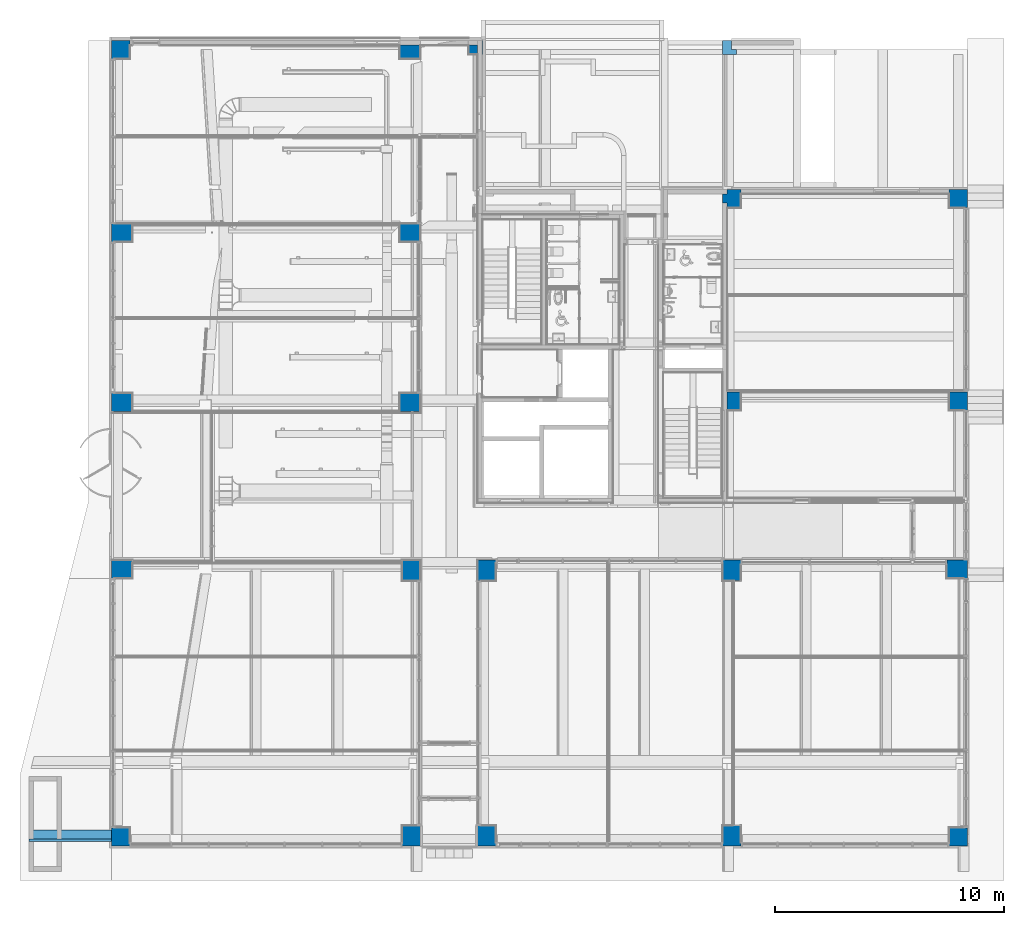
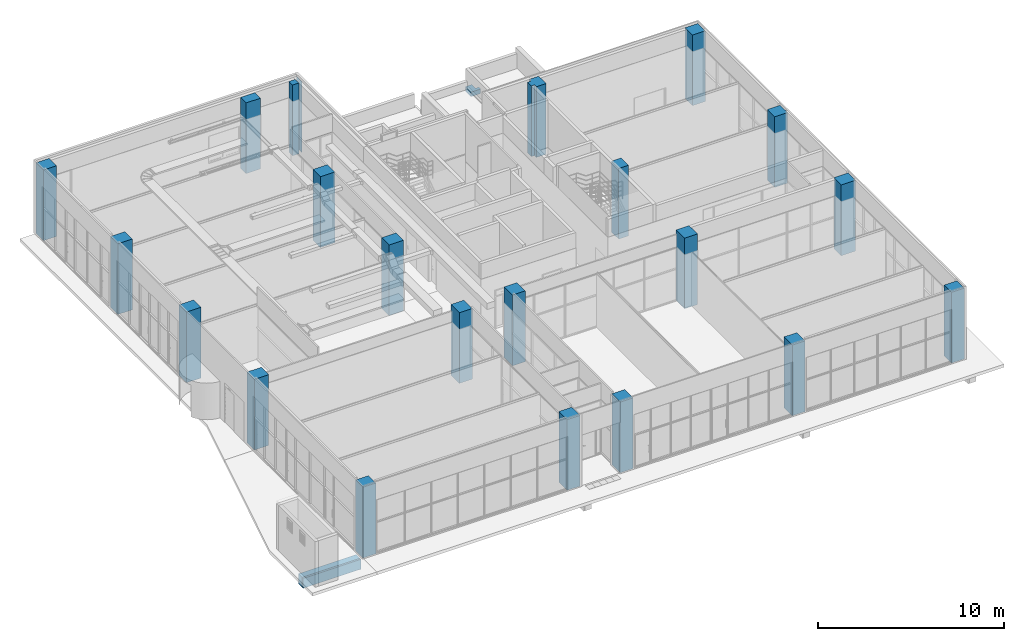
# One storey, part 1 of 100: 22 columns, 2 beams.
"""IFC2X3 building model written with IfcOpenShell, lengths in millimetres."""

from ifc_helpers import new_model, entity, si_unit, converted_unit, derived_unit, direction, frame, frame_2d, origin, origin_2d_with_axis, place, context, subcontext, project, spatial, polyline, rectangle, outline, extrude, source, transform, mapped, material, type_object, type_shapes, element, save


model = new_model("IFC2X3")

# Units and contexts
model_context = context("Model", 3, precision=0.01, world=origin(), true_north=direction((6.123031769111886e-17, 1.0)))
body_context = subcontext(model_context, "Body", "Model", "MODEL_VIEW")
ifc_project = project(units=[si_unit("LENGTHUNIT", "METRE", prefix="MILLI"), si_unit("AREAUNIT", "SQUARE_METRE"), si_unit("VOLUMEUNIT", "CUBIC_METRE"), converted_unit("PLANEANGLEUNIT", "DEGREE", entity("IfcRatioMeasure", 0.017453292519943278), si_unit("PLANEANGLEUNIT", "RADIAN"), dimensions=[0, 0, 0, 0, 0, 0, 0]), si_unit("MASSUNIT", "GRAM", prefix="KILO"), derived_unit("MASSDENSITYUNIT", [(si_unit("MASSUNIT", "GRAM", prefix="KILO"), 1), (si_unit("LENGTHUNIT", "METRE"), -3)]), derived_unit("MOMENTOFINERTIAUNIT", [(si_unit("LENGTHUNIT", "METRE"), 4)]), si_unit("TIMEUNIT", "SECOND"), si_unit("FREQUENCYUNIT", "HERTZ"), si_unit("THERMODYNAMICTEMPERATUREUNIT", "DEGREE_CELSIUS"), derived_unit("THERMALTRANSMITTANCEUNIT", [(si_unit("MASSUNIT", "GRAM", prefix="KILO"), 1), (si_unit("THERMODYNAMICTEMPERATUREUNIT", "KELVIN"), -1), (si_unit("TIMEUNIT", "SECOND"), -3)]), derived_unit("VOLUMETRICFLOWRATEUNIT", [(si_unit("LENGTHUNIT", "METRE"), 3), (si_unit("TIMEUNIT", "SECOND"), -1)]), derived_unit("MASSFLOWRATEUNIT", [(si_unit("MASSUNIT", "GRAM", prefix="KILO"), 1), (si_unit("TIMEUNIT", "SECOND"), -1)]), derived_unit("ROTATIONALFREQUENCYUNIT", [(si_unit("TIMEUNIT", "SECOND"), -1)]), si_unit("ELECTRICCURRENTUNIT", "AMPERE"), si_unit("ELECTRICVOLTAGEUNIT", "VOLT"), si_unit("POWERUNIT", "WATT"), si_unit("FORCEUNIT", "NEWTON", prefix="KILO"), si_unit("ILLUMINANCEUNIT", "LUX"), si_unit("LUMINOUSFLUXUNIT", "LUMEN"), si_unit("LUMINOUSINTENSITYUNIT", "CANDELA"), derived_unit("USERDEFINED", [(si_unit("MASSUNIT", "GRAM", prefix="KILO"), -1), (si_unit("LENGTHUNIT", "METRE"), -2), (si_unit("TIMEUNIT", "SECOND"), 3), (si_unit("LUMINOUSFLUXUNIT", "LUMEN"), 1)]), derived_unit("SOUNDPOWERUNIT", [(si_unit("MASSUNIT", "GRAM", prefix="KILO"), 1), (si_unit("LENGTHUNIT", "METRE"), 2), (si_unit("TIMEUNIT", "SECOND"), -3)]), derived_unit("SOUNDPRESSUREUNIT", [(si_unit("MASSUNIT", "GRAM", prefix="KILO"), 1), (si_unit("LENGTHUNIT", "METRE"), -1), (si_unit("TIMEUNIT", "SECOND"), -2)]), derived_unit("LINEARVELOCITYUNIT", [(si_unit("LENGTHUNIT", "METRE"), 1), (si_unit("TIMEUNIT", "SECOND"), -1)]), si_unit("PRESSUREUNIT", "PASCAL"), derived_unit("USERDEFINED", [(si_unit("LENGTHUNIT", "METRE"), -2), (si_unit("MASSUNIT", "GRAM", prefix="KILO"), 1), (si_unit("TIMEUNIT", "SECOND"), -2)]), derived_unit("LINEARFORCEUNIT", [(si_unit("MASSUNIT", "GRAM", prefix="KILO"), 1), (si_unit("LENGTHUNIT", "METRE"), 1), (si_unit("TIMEUNIT", "SECOND"), -2), (si_unit("LENGTHUNIT", "METRE"), -1)]), derived_unit("PLANARFORCEUNIT", [(si_unit("MASSUNIT", "GRAM", prefix="KILO"), 1), (si_unit("LENGTHUNIT", "METRE"), 1), (si_unit("TIMEUNIT", "SECOND"), -2), (si_unit("LENGTHUNIT", "METRE"), -2)])], contexts=[model_context])

# Site, building, storey
site_placement = place(None, frame((-14167.972527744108, -657.2125860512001, 0.0)))
site = spatial("IfcSite", under=ifc_project, at=site_placement, Name="Default", CompositionType="ELEMENT")
building_placement = place(site_placement, origin())
building = spatial("IfcBuilding", under=site, at=building_placement, Name="Sample Building", CompositionType="ELEMENT")
storey_placement = place(building_placement, origin())
storey = spatial("IfcBuildingStorey", under=building, at=storey_placement, Name="지상 1층", CompositionType="ELEMENT", Elevation=0.0)

# Columns
ifc_material = material(Name="KBIMS-콘크리트")
column_type_1 = type_object("IfcColumnType", Name="CL111-철근콘크리트구조 기둥 (각형)1:CL111-철근콘크리트구조 기둥 (각형)_800x800_B2-7C3", PredefinedType="COLUMN", material=ifc_material)
shared_shape_1 = source(origin(), body_context, "Body", "SweptSolid", [
    extrude(rectangle(XDim=799.9999999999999, YDim=800.0, at=frame_2d((-5.684341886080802e-14, 0.0), x_axis=(1.0, 0.0))), frame((14467.955105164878, 957.2121951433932, 0.0), z_axis=(0.0, 0.0, 1.0), x_axis=(0.0, -1.0, 0.0)), (0.0, 0.0, 1.0), 4650.000000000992),
])
type_shapes(column_type_1, [shared_shape_1])
column_1_placement = place(storey_placement, origin())
element("IfcColumn", 1, at=column_1_placement, inside=storey, type_object=column_type_1, material=ifc_material, Name="CL111-철근콘크리트구조 기둥 (각형)1:CL111-철근콘크리트구조 기둥 (각형)_800x800_B2-7C3", ObjectType="CL111-철근콘크리트구조 기둥 (각형)1:CL111-철근콘크리트구조 기둥 (각형)_800x800_B2-7C3", context=body_context, shape_type="MappedRepresentation", body=[
    mapped(shared_shape_1, transform((0.0, 0.0, 0.0), scale=1.0)),
])
column_type_2 = type_object("IfcColumnType", Name="CL111-철근콘크리트구조 기둥 (각형)1:CL111-철근콘크리트구조 기둥 (각형)_800x900_B2-1C2", PredefinedType="COLUMN", material=ifc_material)
shared_shape_2 = source(origin(), body_context, "Body", "SweptSolid", [
    extrude(rectangle(XDim=900.0, YDim=800.0, at=frame_2d((-8.526512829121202e-14, 0.0), x_axis=(1.0, 0.0))), frame((27167.955141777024, 1007.2121951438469, 0.0), z_axis=(0.0, 0.0, 1.0), x_axis=(0.0, -1.0, 0.0)), (0.0, 0.0, 1.0), 4650.000000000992),
])
type_shapes(column_type_2, [shared_shape_2])
column_2_placement = place(storey_placement, origin())
element("IfcColumn", 2, at=column_2_placement, inside=storey, type_object=column_type_2, material=ifc_material, Name="CL111-철근콘크리트구조 기둥 (각형)1:CL111-철근콘크리트구조 기둥 (각형)_800x900_B2-1C2", ObjectType="CL111-철근콘크리트구조 기둥 (각형)1:CL111-철근콘크리트구조 기둥 (각형)_800x900_B2-1C2", context=body_context, shape_type="MappedRepresentation", body=[
    mapped(shared_shape_2, transform((0.0, 0.0, 0.0), scale=1.0)),
])
column_type_3 = type_object("IfcColumnType", Name="CL111-철근콘크리트구조 기둥 (각형)1:CL111-철근콘크리트구조 기둥 (각형)_800x900_B2-1C2", PredefinedType="COLUMN", material=ifc_material)
shared_shape_3 = source(origin(), body_context, "Body", "SweptSolid", [
    extrude(rectangle(XDim=900.0, YDim=800.0, at=frame_2d((-8.526512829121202e-14, 0.0), x_axis=(1.0, 0.0))), frame((30467.95511434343, 1007.2121951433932, 0.0), z_axis=(0.0, 0.0, 1.0), x_axis=(0.0, -1.0, 0.0)), (0.0, 0.0, 1.0), 4650.000000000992),
])
type_shapes(column_type_3, [shared_shape_3])
column_3_placement = place(storey_placement, origin())
element("IfcColumn", 3, at=column_3_placement, inside=storey, type_object=column_type_3, material=ifc_material, Name="CL111-철근콘크리트구조 기둥 (각형)1:CL111-철근콘크리트구조 기둥 (각형)_800x900_B2-1C2", ObjectType="CL111-철근콘크리트구조 기둥 (각형)1:CL111-철근콘크리트구조 기둥 (각형)_800x900_B2-1C2", context=body_context, shape_type="MappedRepresentation", body=[
    mapped(shared_shape_3, transform((0.0, 0.0, 0.0), scale=1.0)),
])
column_type_4 = type_object("IfcColumnType", Name="CL111-철근콘크리트구조 기둥 (각형)1:CL111-철근콘크리트구조 기둥 (각형)_800x900_B2-1C2", PredefinedType="COLUMN", material=ifc_material)
shared_shape_4 = source(origin(), body_context, "Body", "SweptSolid", [
    extrude(rectangle(XDim=900.0, YDim=800.0, at=frame_2d((0.0, -4.348521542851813e-12), x_axis=(1.0, 0.0))), frame((41167.955141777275, 1007.2121951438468, 0.0), z_axis=(0.0, 0.0, 1.0), x_axis=(0.0, -1.0, 0.0)), (0.0, 0.0, 1.0), 4650.000000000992),
])
type_shapes(column_type_4, [shared_shape_4])
column_4_placement = place(storey_placement, origin())
element("IfcColumn", 4, at=column_4_placement, inside=storey, type_object=column_type_4, material=ifc_material, Name="CL111-철근콘크리트구조 기둥 (각형)1:CL111-철근콘크리트구조 기둥 (각형)_800x900_B2-1C2", ObjectType="CL111-철근콘크리트구조 기둥 (각형)1:CL111-철근콘크리트구조 기둥 (각형)_800x900_B2-1C2", context=body_context, shape_type="MappedRepresentation", body=[
    mapped(shared_shape_4, transform((0.0, 0.0, 0.0), scale=1.0)),
])
column_type_5 = type_object("IfcColumnType", Name="CL111-철근콘크리트구조 기둥 (각형)1:CL111-철근콘크리트구조 기둥 (각형)_800x800_B2-7C3", PredefinedType="COLUMN", material=ifc_material)
shared_shape_5 = source(origin(), body_context, "Body", "SweptSolid", [
    extrude(rectangle(XDim=799.9999999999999, YDim=800.0, at=frame_2d((0.0, -4.348521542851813e-12), x_axis=(1.0, 0.0))), frame((51067.96383810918, 957.2126170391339, 0.0), z_axis=(0.0, 0.0, 1.0), x_axis=(0.0, -1.0, 0.0)), (0.0, 0.0, 1.0), 4650.000000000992),
])
type_shapes(column_type_5, [shared_shape_5])
column_5_placement = place(storey_placement, origin())
element("IfcColumn", 5, at=column_5_placement, inside=storey, type_object=column_type_5, material=ifc_material, Name="CL111-철근콘크리트구조 기둥 (각형)1:CL111-철근콘크리트구조 기둥 (각형)_800x800_B2-7C3", ObjectType="CL111-철근콘크리트구조 기둥 (각형)1:CL111-철근콘크리트구조 기둥 (각형)_800x800_B2-7C3", context=body_context, shape_type="MappedRepresentation", body=[
    mapped(shared_shape_5, transform((0.0, 0.0, 0.0), scale=1.0)),
])
column_type_6 = type_object("IfcColumnType", Name="CL111-철근콘크리트구조 기둥 (각형)1:CL111-철근콘크리트구조 기둥 (각형)_800x900_B2-1C2", PredefinedType="COLUMN", material=ifc_material)
shared_shape_6 = source(origin(), body_context, "Body", "SweptSolid", [
    extrude(rectangle(XDim=800.0000000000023, YDim=900.0000000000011, at=frame_2d((0.0, 2.1600499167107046e-12), x_axis=(1.0, 0.0))), frame((14517.955105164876, 12657.21261703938, 0.0), z_axis=(0.0, 0.0, 1.0), x_axis=(0.0, -1.0, 0.0)), (0.0, 0.0, 1.0), 4650.000000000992),
])
type_shapes(column_type_6, [shared_shape_6])
column_6_placement = place(storey_placement, origin())
element("IfcColumn", 6, at=column_6_placement, inside=storey, type_object=column_type_6, material=ifc_material, Name="CL111-철근콘크리트구조 기둥 (각형)1:CL111-철근콘크리트구조 기둥 (각형)_800x900_B2-1C2", ObjectType="CL111-철근콘크리트구조 기둥 (각형)1:CL111-철근콘크리트구조 기둥 (각형)_800x900_B2-1C2", context=body_context, shape_type="MappedRepresentation", body=[
    mapped(shared_shape_6, transform((0.0, 0.0, 0.0), scale=1.0)),
])
column_type_7 = type_object("IfcColumnType", Name="CL111-철근콘크리트구조 기둥 (각형)1:CL111-철근콘크리트구조 기둥 (각형)_800x900_B2-1C2", PredefinedType="COLUMN", material=ifc_material)
shared_shape_7 = source(origin(), body_context, "Body", "SweptSolid", [
    extrude(rectangle(XDim=899.999999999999, YDim=800.0, at=origin_2d_with_axis()), frame((27167.955141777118, 12607.212617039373, 0.0), z_axis=(0.0, 0.0, 1.0), x_axis=(0.0, -1.0, 0.0)), (0.0, 0.0, 1.0), 4650.000000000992),
])
type_shapes(column_type_7, [shared_shape_7])
column_7_placement = place(storey_placement, origin())
element("IfcColumn", 7, at=column_7_placement, inside=storey, type_object=column_type_7, material=ifc_material, Name="CL111-철근콘크리트구조 기둥 (각형)1:CL111-철근콘크리트구조 기둥 (각형)_800x900_B2-1C2", ObjectType="CL111-철근콘크리트구조 기둥 (각형)1:CL111-철근콘크리트구조 기둥 (각형)_800x900_B2-1C2", context=body_context, shape_type="MappedRepresentation", body=[
    mapped(shared_shape_7, transform((0.0, 0.0, 0.0), scale=1.0)),
])
column_type_8 = type_object("IfcColumnType", Name="CL111-철근콘크리트구조 기둥 (각형)1:CL111-철근콘크리트구조 기둥 (각형)_800x900_B2-1C2", PredefinedType="COLUMN", material=ifc_material)
shared_shape_8 = source(origin(), body_context, "Body", "SweptSolid", [
    extrude(rectangle(XDim=899.999999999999, YDim=800.0, at=origin_2d_with_axis()), frame((30467.95511434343, 12607.212617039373, 0.0), z_axis=(0.0, 0.0, 1.0), x_axis=(0.0, -1.0, 0.0)), (0.0, 0.0, 1.0), 4650.000000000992),
])
type_shapes(column_type_8, [shared_shape_8])
column_8_placement = place(storey_placement, origin())
element("IfcColumn", 8, at=column_8_placement, inside=storey, type_object=column_type_8, material=ifc_material, Name="CL111-철근콘크리트구조 기둥 (각형)1:CL111-철근콘크리트구조 기둥 (각형)_800x900_B2-1C2", ObjectType="CL111-철근콘크리트구조 기둥 (각형)1:CL111-철근콘크리트구조 기둥 (각형)_800x900_B2-1C2", context=body_context, shape_type="MappedRepresentation", body=[
    mapped(shared_shape_8, transform((0.0, 0.0, 0.0), scale=1.0)),
])
column_type_9 = type_object("IfcColumnType", Name="CL111-철근콘크리트구조 기둥 (각형)1:CL111-철근콘크리트구조 기둥 (각형)_800x900_B2-1C2", PredefinedType="COLUMN", material=ifc_material)
shared_shape_9 = source(origin(), body_context, "Body", "SweptSolid", [
    extrude(rectangle(XDim=899.999999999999, YDim=800.0, at=frame_2d((0.0, -4.348521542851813e-12), x_axis=(1.0, 0.0))), frame((41167.955141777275, 12607.212617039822, 0.0), z_axis=(0.0, 0.0, 1.0), x_axis=(0.0, -1.0, 0.0)), (0.0, 0.0, 1.0), 4650.000000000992),
])
type_shapes(column_type_9, [shared_shape_9])
column_9_placement = place(storey_placement, origin())
element("IfcColumn", 9, at=column_9_placement, inside=storey, type_object=column_type_9, material=ifc_material, Name="CL111-철근콘크리트구조 기둥 (각형)1:CL111-철근콘크리트구조 기둥 (각형)_800x900_B2-1C2", ObjectType="CL111-철근콘크리트구조 기둥 (각형)1:CL111-철근콘크리트구조 기둥 (각형)_800x900_B2-1C2", context=body_context, shape_type="MappedRepresentation", body=[
    mapped(shared_shape_9, transform((0.0, 0.0, 0.0), scale=1.0)),
])
column_type_10 = type_object("IfcColumnType", Name="CL111-철근콘크리트구조 기둥 (각형)1:CL111-철근콘크리트구조 기둥 (각형)_800x900_B2-1C2", PredefinedType="COLUMN", material=ifc_material)
shared_shape_10 = source(origin(), body_context, "Body", "SweptSolid", [
    extrude(rectangle(XDim=800.0000000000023, YDim=900.0000000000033, at=origin_2d_with_axis()), frame((51017.95513594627, 12657.213038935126, 0.0), z_axis=(0.0, 0.0, 1.0), x_axis=(0.0, -1.0, 0.0)), (0.0, 0.0, 1.0), 4650.000000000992),
])
type_shapes(column_type_10, [shared_shape_10])
column_10_placement = place(storey_placement, origin())
element("IfcColumn", 10, at=column_10_placement, inside=storey, type_object=column_type_10, material=ifc_material, Name="CL111-철근콘크리트구조 기둥 (각형)1:CL111-철근콘크리트구조 기둥 (각형)_800x900_B2-1C2", ObjectType="CL111-철근콘크리트구조 기둥 (각형)1:CL111-철근콘크리트구조 기둥 (각형)_800x900_B2-1C2", context=body_context, shape_type="MappedRepresentation", body=[
    mapped(shared_shape_10, transform((0.0, 0.0, 0.0), scale=1.0)),
])
column_type_11 = type_object("IfcColumnType", Name="CL111-철근콘크리트구조 기둥 (각형)1:CL111-철근콘크리트구조 기둥 (각형)_800x900_B2-1C2", PredefinedType="COLUMN", material=ifc_material)
shared_shape_11 = source(origin(), body_context, "Body", "SweptSolid", [
    extrude(rectangle(XDim=800.0, YDim=900.0000000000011, at=origin_2d_with_axis()), frame((14517.955105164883, 19957.21261703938, 0.0), z_axis=(0.0, 0.0, 1.0), x_axis=(0.0, -1.0, 0.0)), (0.0, 0.0, 1.0), 4650.000000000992),
])
type_shapes(column_type_11, [shared_shape_11])
column_11_placement = place(storey_placement, origin())
element("IfcColumn", 11, at=column_11_placement, inside=storey, type_object=column_type_11, material=ifc_material, Name="CL111-철근콘크리트구조 기둥 (각형)1:CL111-철근콘크리트구조 기둥 (각형)_800x900_B2-1C2", ObjectType="CL111-철근콘크리트구조 기둥 (각형)1:CL111-철근콘크리트구조 기둥 (각형)_800x900_B2-1C2", context=body_context, shape_type="MappedRepresentation", body=[
    mapped(shared_shape_11, transform((0.0, 0.0, 0.0), scale=1.0)),
])
column_type_12 = type_object("IfcColumnType", Name="CL111-철근콘크리트구조 기둥 (각형)1:CL111-철근콘크리트구조 기둥 (각형)_800x900_B2-1C2", PredefinedType="COLUMN", material=ifc_material)
shared_shape_12 = source(origin(), body_context, "Body", "SweptSolid", [
    extrude(rectangle(XDim=800.0, YDim=899.999999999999, at=origin_2d_with_axis()), frame((27117.95514177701, 19957.212617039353, 0.0), z_axis=(0.0, 0.0, 1.0), x_axis=(0.0, -1.0, 0.0)), (0.0, 0.0, 1.0), 4650.000000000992),
])
type_shapes(column_type_12, [shared_shape_12])
column_12_placement = place(storey_placement, origin())
element("IfcColumn", 12, at=column_12_placement, inside=storey, type_object=column_type_12, material=ifc_material, Name="CL111-철근콘크리트구조 기둥 (각형)1:CL111-철근콘크리트구조 기둥 (각형)_800x900_B2-1C2", ObjectType="CL111-철근콘크리트구조 기둥 (각형)1:CL111-철근콘크리트구조 기둥 (각형)_800x900_B2-1C2", context=body_context, shape_type="MappedRepresentation", body=[
    mapped(shared_shape_12, transform((0.0, 0.0, 0.0), scale=1.0)),
])
column_type_13 = type_object("IfcColumnType", Name="CL111-철근콘크리트구조 기둥 (각형)1:CL111-철근콘크리트구조 기둥 (각형)_800x800_B2-4C1", PredefinedType="COLUMN", material=ifc_material)
shared_shape_13 = source(origin(), body_context, "Body", "SweptSolid", [
    extrude(rectangle(XDim=800.0000000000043, YDim=600.0086732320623, at=frame_2d((0.0, -4.320099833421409e-12), x_axis=(1.0, 0.0))), frame((41267.968134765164, 19994.712307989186, 0.0), z_axis=(0.0, 0.0, 1.0), x_axis=(0.0, -1.0, 0.0)), (0.0, 0.0, 1.0), 4650.000000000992),
])
type_shapes(column_type_13, [shared_shape_13])
column_13_placement = place(storey_placement, origin())
element("IfcColumn", 13, at=column_13_placement, inside=storey, type_object=column_type_13, material=ifc_material, Name="CL111-철근콘크리트구조 기둥 (각형)1:CL111-철근콘크리트구조 기둥 (각형)_800x800_B2-4C1", ObjectType="CL111-철근콘크리트구조 기둥 (각형)1:CL111-철근콘크리트구조 기둥 (각형)_800x800_B2-4C1", context=body_context, shape_type="MappedRepresentation", body=[
    mapped(shared_shape_13, transform((0.0, 0.0, 0.0), scale=1.0)),
])
column_type_14 = type_object("IfcColumnType", Name="CL111-철근콘크리트구조 기둥 (각형)1:CL111-철근콘크리트구조 기둥 (각형)_800x800_B2-4C1", PredefinedType="COLUMN", material=ifc_material)
shared_shape_14 = source(origin(), body_context, "Body", "SweptSolid", [
    extrude(rectangle(XDim=800.0, YDim=800.0, at=frame_2d((0.0, -4.348521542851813e-12), x_axis=(1.0, 0.0))), frame((51067.963865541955, 19994.712307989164, 0.0), z_axis=(0.0, 0.0, 1.0), x_axis=(0.0, -1.0, 0.0)), (0.0, 0.0, 1.0), 4650.000000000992),
])
type_shapes(column_type_14, [shared_shape_14])
column_14_placement = place(storey_placement, origin())
element("IfcColumn", 14, at=column_14_placement, inside=storey, type_object=column_type_14, material=ifc_material, Name="CL111-철근콘크리트구조 기둥 (각형)1:CL111-철근콘크리트구조 기둥 (각형)_800x800_B2-4C1", ObjectType="CL111-철근콘크리트구조 기둥 (각형)1:CL111-철근콘크리트구조 기둥 (각형)_800x800_B2-4C1", context=body_context, shape_type="MappedRepresentation", body=[
    mapped(shared_shape_14, transform((0.0, 0.0, 0.0), scale=1.0)),
])
column_type_15 = type_object("IfcColumnType", Name="CL111-철근콘크리트구조 기둥 (각형)1:CL111-철근콘크리트구조 기둥 (각형)_800x900_B2-1C2", PredefinedType="COLUMN", material=ifc_material)
shared_shape_15 = source(origin(), body_context, "Body", "SweptSolid", [
    extrude(rectangle(XDim=800.0, YDim=900.0000000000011, at=origin_2d_with_axis()), frame((14517.955086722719, 27357.212617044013, 0.0), z_axis=(0.0, 0.0, 1.0), x_axis=(0.0, -1.0, 0.0)), (0.0, 0.0, 1.0), 4650.000000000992),
])
type_shapes(column_type_15, [shared_shape_15])
column_15_placement = place(storey_placement, origin())
element("IfcColumn", 15, at=column_15_placement, inside=storey, type_object=column_type_15, material=ifc_material, Name="CL111-철근콘크리트구조 기둥 (각형)1:CL111-철근콘크리트구조 기둥 (각형)_800x900_B2-1C2", ObjectType="CL111-철근콘크리트구조 기둥 (각형)1:CL111-철근콘크리트구조 기둥 (각형)_800x900_B2-1C2", context=body_context, shape_type="MappedRepresentation", body=[
    mapped(shared_shape_15, transform((0.0, 0.0, 0.0), scale=1.0)),
])
column_type_16 = type_object("IfcColumnType", Name="CL111-철근콘크리트구조 기둥 (각형)1:CL111-철근콘크리트구조 기둥 (각형)_800x900_B2-1C2", PredefinedType="COLUMN", material=ifc_material)
shared_shape_16 = source(origin(), body_context, "Body", "SweptSolid", [
    extrude(rectangle(XDim=800.0, YDim=899.999999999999, at=origin_2d_with_axis()), frame((27117.955141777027, 27357.212617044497, 0.0), z_axis=(0.0, 0.0, 1.0), x_axis=(0.0, -1.0, 0.0)), (0.0, 0.0, 1.0), 4650.000000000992),
])
type_shapes(column_type_16, [shared_shape_16])
column_16_placement = place(storey_placement, origin())
element("IfcColumn", 16, at=column_16_placement, inside=storey, type_object=column_type_16, material=ifc_material, Name="CL111-철근콘크리트구조 기둥 (각형)1:CL111-철근콘크리트구조 기둥 (각형)_800x900_B2-1C2", ObjectType="CL111-철근콘크리트구조 기둥 (각형)1:CL111-철근콘크리트구조 기둥 (각형)_800x900_B2-1C2", context=body_context, shape_type="MappedRepresentation", body=[
    mapped(shared_shape_16, transform((0.0, 0.0, 0.0), scale=1.0)),
])
column_type_17 = type_object("IfcColumnType", Name="CL111-철근콘크리트구조 기둥 (각형)1:CL111-철근콘크리트구조 기둥 (각형)_800x800_B2-4C1", PredefinedType="COLUMN", material=ifc_material)
shared_shape_17 = source(origin(), body_context, "Body", "SweptSolid", [
    extrude(outline(polyline([(-159.99987894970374, -399.80693242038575), (240.0001210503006, -399.80693242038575), (240.0001210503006, -199.79827604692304), (439.99981200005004, -199.79827604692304), (439.99981200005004, 400.1930675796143), (-159.9998661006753, 400.1930675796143), (-159.99986610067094, 399.2104169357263), (-360.00018799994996, 399.2104169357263), (-360.00018799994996, -199.79827604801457), (-159.99987894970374, -199.79827604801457), (-159.99987894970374, -399.80693242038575)])), frame((41167.76207419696, 28897.212429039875, 0.0), z_axis=(0.0, 0.0, 1.0), x_axis=(0.0, -1.0, 0.0)), (0.0, 0.0, 1.0), 4650.000000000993),
])
type_shapes(column_type_17, [shared_shape_17])
column_17_placement = place(storey_placement, origin())
element("IfcColumn", 17, at=column_17_placement, inside=storey, type_object=column_type_17, material=ifc_material, Name="CL111-철근콘크리트구조 기둥 (각형)1:CL111-철근콘크리트구조 기둥 (각형)_800x800_B2-4C1", ObjectType="CL111-철근콘크리트구조 기둥 (각형)1:CL111-철근콘크리트구조 기둥 (각형)_800x800_B2-4C1", context=body_context, shape_type="MappedRepresentation", body=[
    mapped(shared_shape_17, transform((0.0, 0.0, 0.0), scale=1.0)),
])
column_type_18 = type_object("IfcColumnType", Name="CL111-철근콘크리트구조 기둥 (각형)1:CL111-철근콘크리트구조 기둥 (각형)_800x800_B2-4C1", PredefinedType="COLUMN", material=ifc_material)
shared_shape_18 = source(origin(), body_context, "Body", "SweptSolid", [
    extrude(rectangle(XDim=800.0, YDim=800.0, at=frame_2d((0.0, -4.348521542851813e-12), x_axis=(1.0, 0.0))), frame((51067.963865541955, 28857.212704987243, 0.0), z_axis=(0.0, 0.0, 1.0), x_axis=(0.0, -1.0, 0.0)), (0.0, 0.0, 1.0), 4650.000000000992),
])
type_shapes(column_type_18, [shared_shape_18])
column_18_placement = place(storey_placement, origin())
element("IfcColumn", 18, at=column_18_placement, inside=storey, type_object=column_type_18, material=ifc_material, Name="CL111-철근콘크리트구조 기둥 (각형)1:CL111-철근콘크리트구조 기둥 (각형)_800x800_B2-4C1", ObjectType="CL111-철근콘크리트구조 기둥 (각형)1:CL111-철근콘크리트구조 기둥 (각형)_800x800_B2-4C1", context=body_context, shape_type="MappedRepresentation", body=[
    mapped(shared_shape_18, transform((0.0, 0.0, 0.0), scale=1.0)),
])
column_type_19 = type_object("IfcColumnType", Name="CL111-철근콘크리트구조 기둥 (각형)1:CL111-철근콘크리트구조 기둥 (각형)_800x800_B2-7C3", PredefinedType="COLUMN", material=ifc_material)
shared_shape_19 = source(origin(), body_context, "Body", "SweptSolid", [
    extrude(rectangle(XDim=800.0, YDim=800.0, at=origin_2d_with_axis()), frame((14467.955105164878, 35357.21258960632, 0.0), z_axis=(0.0, 0.0, 1.0), x_axis=(0.0, -1.0, 0.0)), (0.0, 0.0, 1.0), 4650.000000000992),
])
type_shapes(column_type_19, [shared_shape_19])
column_19_placement = place(storey_placement, origin())
element("IfcColumn", 19, at=column_19_placement, inside=storey, type_object=column_type_19, material=ifc_material, Name="CL111-철근콘크리트구조 기둥 (각형)1:CL111-철근콘크리트구조 기둥 (각형)_800x800_B2-7C3", ObjectType="CL111-철근콘크리트구조 기둥 (각형)1:CL111-철근콘크리트구조 기둥 (각형)_800x800_B2-7C3", context=body_context, shape_type="MappedRepresentation", body=[
    mapped(shared_shape_19, transform((0.0, 0.0, 0.0), scale=1.0)),
])
column_type_20 = type_object("IfcColumnType", Name="CL111-철근콘크리트구조 기둥 (각형)1:CL111-철근콘크리트구조 기둥 (각형)_800x900_B2-1C2", PredefinedType="COLUMN", material=ifc_material)
shared_shape_20 = source(origin(), body_context, "Body", "SweptSolid", [
    extrude(rectangle(XDim=599.9997055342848, YDim=900.0000000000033, at=frame_2d((2.1600499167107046e-12, -6.480149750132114e-12), x_axis=(1.0, 0.0))), frame((27117.955141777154, 35257.21244237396, 0.0), z_axis=(0.0, 0.0, 1.0), x_axis=(0.0, -1.0, 0.0)), (0.0, 0.0, 1.0), 4650.000000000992),
])
type_shapes(column_type_20, [shared_shape_20])
column_20_placement = place(storey_placement, origin())
element("IfcColumn", 20, at=column_20_placement, inside=storey, type_object=column_type_20, material=ifc_material, Name="CL111-철근콘크리트구조 기둥 (각형)1:CL111-철근콘크리트구조 기둥 (각형)_800x900_B2-1C2", ObjectType="CL111-철근콘크리트구조 기둥 (각형)1:CL111-철근콘크리트구조 기둥 (각형)_800x900_B2-1C2", context=body_context, shape_type="MappedRepresentation", body=[
    mapped(shared_shape_20, transform((0.0, 0.0, 0.0), scale=1.0)),
])
column_type_21 = type_object("IfcColumnType", Name="CL111-철근콘크리트구조 기둥 (각형)1:CL111-철근콘크리트구조 기둥 (각형)_600x600_B2-10C4", PredefinedType="COLUMN", material=ifc_material)
shared_shape_21 = source(origin(), body_context, "Body", "SweptSolid", [
    extrude(rectangle(XDim=399.9996781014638, YDim=398.17940227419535, at=frame_2d((-2.1600499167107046e-12, 0.0), x_axis=(1.0, 0.0))), frame((29867.03611331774, 35357.212456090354, 0.0), z_axis=(0.0, 0.0, 1.0), x_axis=(0.0, -1.0, 0.0)), (0.0, 0.0, 1.0), 4650.000000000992),
    extrude(rectangle(XDim=600.0000000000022, YDim=1.8205977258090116, at=frame_2d((0.0, -2.165712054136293e-12), x_axis=(1.0, 0.0))), frame((30267.03611331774, 35457.21261703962, 0.0), z_axis=(0.0, 0.0, 1.0), x_axis=(0.0, -1.0, 0.0)), (0.0, 0.0, 1.0), 4650.000000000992),
])
type_shapes(column_type_21, [shared_shape_21])
column_21_placement = place(storey_placement, origin())
element("IfcColumn", 21, at=column_21_placement, inside=storey, type_object=column_type_21, material=ifc_material, Name="CL111-철근콘크리트구조 기둥 (각형)1:CL111-철근콘크리트구조 기둥 (각형)_600x600_B2-10C4", ObjectType="CL111-철근콘크리트구조 기둥 (각형)1:CL111-철근콘크리트구조 기둥 (각형)_600x600_B2-10C4", context=body_context, shape_type="MappedRepresentation", body=[
    mapped(shared_shape_21, transform((0.0, 0.0, 0.0), scale=1.0)),
])
column_type_22 = type_object("IfcColumnType", Name="CL111-철근콘크리트구조 기둥 (각형)1:CL111-철근콘크리트구조 기둥 (각형)_600x600_B2-B2C12", PredefinedType="COLUMN", material=ifc_material)
shared_shape_22 = source(origin(), body_context, "Body", "SweptSolid", [
    extrude(outline(polyline([(-333.3334363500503, -333.33911645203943), (266.66656364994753, -333.33911645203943), (266.66656364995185, 266.6608835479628), (66.66687270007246, 266.6608835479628), (66.66687270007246, 66.6782329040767), (-333.3334363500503, 66.6782329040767), (-333.3334363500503, -333.33911645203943)])), frame((41101.28556524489, 35423.87918068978, 0.0), z_axis=(0.0, 0.0, 1.0), x_axis=(0.0, -1.0, 0.0)), (0.0, 0.0, 1.0), 300.0000000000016),
])
type_shapes(column_type_22, [shared_shape_22])
column_22_placement = place(storey_placement, origin())
element("IfcColumn", 22, at=column_22_placement, inside=storey, type_object=column_type_22, material=ifc_material, Name="CL111-철근콘크리트구조 기둥 (각형)1:CL111-철근콘크리트구조 기둥 (각형)_600x600_B2-B2C12", ObjectType="CL111-철근콘크리트구조 기둥 (각형)1:CL111-철근콘크리트구조 기둥 (각형)_600x600_B2-B2C12", context=body_context, shape_type="MappedRepresentation", body=[
    mapped(shared_shape_22, transform((0.0, 0.0, 0.0), scale=1.0)),
])

# Beams
beam_type = type_object("IfcBeamType", Name="BM111-철근콘크리트구조 보:BM110-철근 콘크리트구조 보_400 x 850_B1-1G3", PredefinedType="NOTDEFINED")
beam_1_placement = place(storey_placement, frame((10217.972491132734, 1071.0766932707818, 0.0)))
element("IfcBeam", 23, at=beam_1_placement, inside=storey, type_object=beam_type, material=ifc_material, Name="BM111-철근콘크리트구조 보:BM110-철근 콘크리트구조 보_400 x 850_B1-1G3", ObjectType="BM111-철근콘크리트구조 보:BM110-철근 콘크리트구조 보_400 x 850_B1-1G3", context=body_context, shape_type="SweptSolid", body=[
    extrude(rectangle(XDim=650.0000000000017, YDim=400.0000000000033, at=origin_2d_with_axis()), frame((250.0, 0.0, -525.0), z_axis=(1.0, 0.0, 0.0), x_axis=(0.0, 0.0, -1.0)), (0.0, 0.0, 1.0), 3599.9826140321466),
])
beam_2_placement = place(storey_placement, frame((10217.972491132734, 957.2121951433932, 0.0)))
element("IfcBeam", 24, at=beam_2_placement, inside=storey, type_object=beam_type, material=ifc_material, Name="BM111-철근콘크리트구조 보:BM110-철근 콘크리트구조 보_400 x 850_B1-1G3", ObjectType="BM111-철근콘크리트구조 보:BM110-철근 콘크리트구조 보_400 x 850_B1-1G3", context=body_context, shape_type="SweptSolid", body=[
    extrude(rectangle(XDim=650.0000000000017, YDim=113.86449812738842, at=origin_2d_with_axis()), frame((250.0, -143.06775093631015, -525.0), z_axis=(1.0, 0.0, 0.0), x_axis=(0.0, 0.0, -1.0)), (0.0, 0.0, 1.0), 3599.9826140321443),
])

save(model, "model.ifc")
